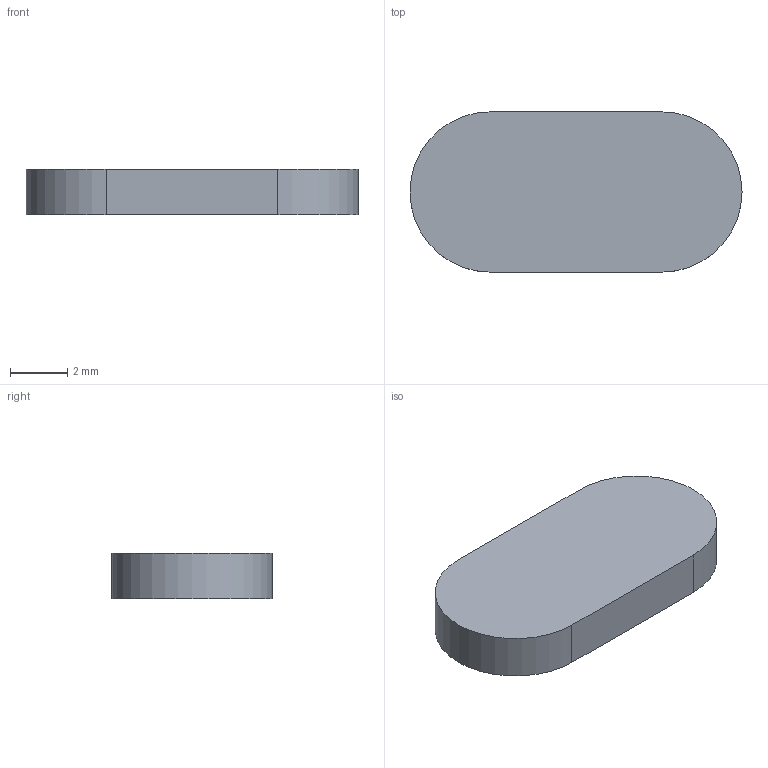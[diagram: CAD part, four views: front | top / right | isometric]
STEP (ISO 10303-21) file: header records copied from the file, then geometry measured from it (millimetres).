
FILE_DESCRIPTION(('FreeCAD Model'),'2;1');
FILE_NAME('Open CASCADE Shape Model','2026-10-24T11:59:22',('FreeCAD'),( 'FreeCAD'),'Open CASCADE STEP processor 7.8','FreeCAD','Unknown');
FILE_SCHEMA(('AUTOMOTIVE_DESIGN { 1 0 10303 214 1 1 1 1 }'));
Length unit declared in the file: millimetre
Products named in the file (1): Open CASCADE STEP translator 7.8 10
Bounding box: 11.6 x 5.6 x 1.6 mm (x, y, z)
Volume: 93.2 mm3; surface area: 163.8 mm2
Topology: 1 solids, 1 shells, 6 faces, 14 edges, 10 vertices
Faces by surface type: plane 4, cylinder 2
Entity records: 190 total; most frequent: DIRECTION 34, CARTESIAN_POINT 31, ORIENTED_EDGE 28, EDGE_CURVE 14, AXIS2_PLACEMENT_3D 13, VERTEX_POINT 10, LINE 8, VECTOR 8
